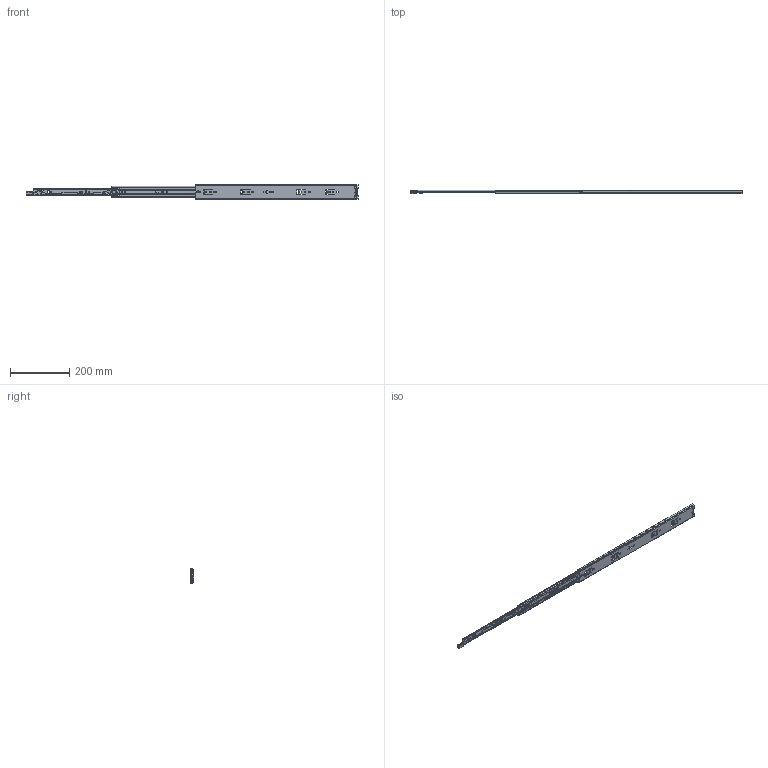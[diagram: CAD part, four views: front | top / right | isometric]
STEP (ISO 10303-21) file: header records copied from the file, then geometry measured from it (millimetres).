
FILE_DESCRIPTION((''),'2;1');
FILE_NAME('KP-50-3S-22ZUO_ASM','2023-05-05T',('jishu015'),(''),'PRO/ENGINEER BY PARAMETRIC TECHNOLOGY CORPORATION, 2010280','PRO/ENGINEER BY PARAMETRIC TECHNOLOGY CORPORATION, 2010280','');
FILE_SCHEMA(('CONFIG_CONTROL_DESIGN'));
Products named in the file (19): KP-50-01WAIKE18________________; KP-50-01ZHONGGIU20__; ZHONGGUIPEIJIAN_____________; 50BAIKOU__________; KP-53-01ZHONGGUI-1854____ASM; KP-50-01ZHUJIA-16GE43___; 4-76GANZHU________________; KP-50-01ZHUJIA-16GE23____ASM; KP-50-01NEIGUI1821; YH1050BANJI_____________; PIAN_____________; JIAO_____________; DAOPIAN__________; ZOU-1__________; KP53-0NEIGUI_________________ASM; 50ZHUTIAO________________; 50ZHUTIAO_________________ASM; CHANGGUI1045WEIJIAO232_; KP-50-3S-22ZUO_ASM
Assembly tree (67 placements, depth 3):
  KP-50-3S-22ZUO_ASM
    KP-50-01WAIKE18________________
    KP-53-01ZHONGGUI-1854____ASM
      KP-50-01ZHONGGIU20__
      ZHONGGUIPEIJIAN_____________
      50BAIKOU__________
    KP-50-01ZHUJIA-16GE23____ASM
      KP-50-01ZHUJIA-16GE43___
      4-76GANZHU________________  x40
    KP53-0NEIGUI_________________ASM
      KP-50-01NEIGUI1821
      YH1050BANJI_____________
      PIAN_____________
      JIAO_____________
      DAOPIAN__________
      ZOU-1__________
    50ZHUTIAO_________________ASM  x2
      50ZHUTIAO________________
      4-76GANZHU________________
    CHANGGUI1045WEIJIAO232_
Bounding box: 1125.3 x 13 x 50 mm (x, y, z)
Volume: 164619.4 mm3; surface area: 217720.3 mm2
Topology: 72 solids, 73 shells, 1939 faces, 5634 edges, 3480 vertices
Faces by surface type: cylinder 842, plane 780, bspline 137, sphere 118, torus 25, extrusion 23, cone 14
Entity records: 65158 total; most frequent: CARTESIAN_POINT 17372, ORIENTED_EDGE 10200, DIRECTION 9788, EDGE_CURVE 5102, AXIS2_PLACEMENT_3D 3332, VERTEX_POINT 3242, VECTOR 3124, LINE 3101
